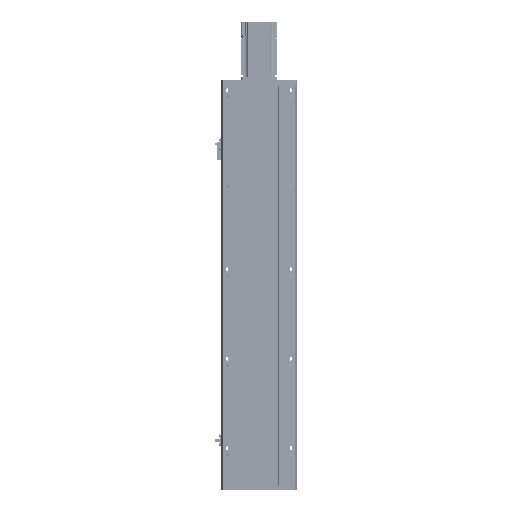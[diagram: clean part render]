
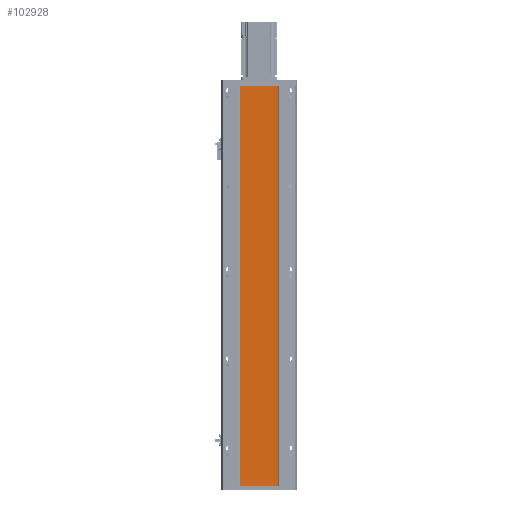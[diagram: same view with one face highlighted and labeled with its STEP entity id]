
A CAD part, front view. The second image highlights one B-rep face of the part: STEP entity #102928.
In plain terms, the highlighted planar face has unit normal (0, -1, 0).
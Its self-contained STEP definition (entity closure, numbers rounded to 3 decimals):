
#3728 = CARTESIAN_POINT ( 'NONE',  ( -42., 0., -895. ) ) ;
#8648 = AXIS2_PLACEMENT_3D ( 'NONE', #3728, #11986, #68511 ) ;
#10074 = VERTEX_POINT ( 'NONE', #25526 ) ;
#11594 = LINE ( 'NONE', #46117, #33115 ) ;
#11986 = DIRECTION ( 'NONE',  ( 0., -1., 0. ) ) ;
#19731 = VERTEX_POINT ( 'NONE', #72168 ) ;
#19884 = CARTESIAN_POINT ( 'NONE',  ( -42., 0., 0. ) ) ;
#21934 = DIRECTION ( 'NONE',  ( 1., 0., 0. ) ) ;
#25526 = CARTESIAN_POINT ( 'NONE',  ( 42., 0., 0. ) ) ;
#27420 = CARTESIAN_POINT ( 'NONE',  ( 42., 0., -895. ) ) ;
#33115 = VECTOR ( 'NONE', #94474, 1000. ) ;
#35869 = VERTEX_POINT ( 'NONE', #19884 ) ;
#37813 = CARTESIAN_POINT ( 'NONE',  ( -42., 0., -895. ) ) ;
#43457 = DIRECTION ( 'NONE',  ( 0., 0., 1. ) ) ;
#44278 = EDGE_LOOP ( 'NONE', ( #79506, #94060, #47419, #70976 ) ) ;
#46117 = CARTESIAN_POINT ( 'NONE',  ( -42., 0., 0. ) ) ;
#46926 = VECTOR ( 'NONE', #83997, 1000. ) ;
#47419 = ORIENTED_EDGE ( 'NONE', *, *, #75325, .T. ) ;
#48224 = VECTOR ( 'NONE', #43457, 1000. ) ;
#48774 = VERTEX_POINT ( 'NONE', #53765 ) ;
#52021 = LINE ( 'NONE', #37813, #73564 ) ;
#52280 = PLANE ( 'NONE',  #8648 ) ;
#53765 = CARTESIAN_POINT ( 'NONE',  ( 42., 0., -895. ) ) ;
#64807 = EDGE_CURVE ( 'NONE', #19731, #35869, #67204, .T. ) ;
#67204 = LINE ( 'NONE', #100312, #48224 ) ;
#68511 = DIRECTION ( 'NONE',  ( 0., 0., -1. ) ) ;
#69772 = EDGE_CURVE ( 'NONE', #35869, #10074, #11594, .T. ) ;
#70976 = ORIENTED_EDGE ( 'NONE', *, *, #82161, .T. ) ;
#72168 = CARTESIAN_POINT ( 'NONE',  ( -42., 0., -895. ) ) ;
#73564 = VECTOR ( 'NONE', #21934, 1000. ) ;
#75325 = EDGE_CURVE ( 'NONE', #19731, #48774, #52021, .T. ) ;
#79506 = ORIENTED_EDGE ( 'NONE', *, *, #69772, .F. ) ;
#82161 = EDGE_CURVE ( 'NONE', #48774, #10074, #94946, .T. ) ;
#83997 = DIRECTION ( 'NONE',  ( 0., 0., 1. ) ) ;
#94060 = ORIENTED_EDGE ( 'NONE', *, *, #64807, .F. ) ;
#94474 = DIRECTION ( 'NONE',  ( 1., 0., 0. ) ) ;
#94946 = LINE ( 'NONE', #27420, #46926 ) ;
#100312 = CARTESIAN_POINT ( 'NONE',  ( -42., 0., -895. ) ) ;
#102267 = FACE_OUTER_BOUND ( 'NONE', #44278, .T. ) ;
#102928 = ADVANCED_FACE ( 'NONE', ( #102267 ), #52280, .T. ) ;
